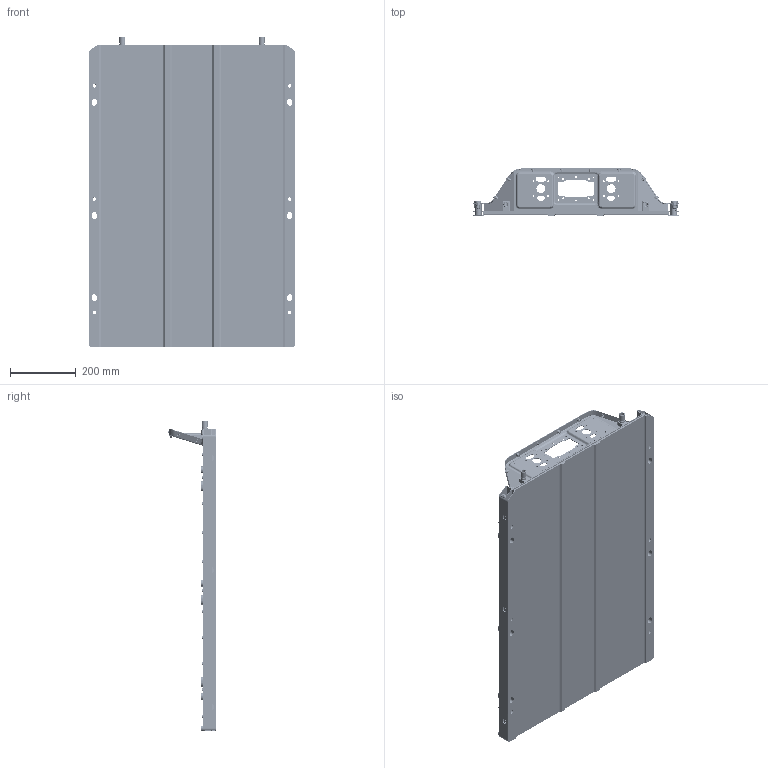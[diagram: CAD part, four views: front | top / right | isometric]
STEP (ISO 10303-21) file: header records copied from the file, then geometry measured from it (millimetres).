
FILE_DESCRIPTION (( 'STEP AP203' ), '1' );
FILE_NAME ('B230-YD-G-眊极爾諉璃.STEP', '2021-09-07T06:02:36', ( 'lenovo' ), ( '' ), 'SwSTEP 2.0', 'SolidWorks 2017', '' );
FILE_SCHEMA (( 'CONFIG_CONTROL_DESIGN' ));
Length unit declared in the file: millimetre
Products named in the file (17): 珘濮阨郲; 3-B230-ﾒｺﾀ蔆萠蟷ﾌｶｨﾂﾝﾎﾆｿﾗ; 3-B230-珘濮眊极L倛殤; 3-B230-ﾒｺﾀ蔆萠蟷ﾌｶｨｳ､ﾔｲｿﾗ; B230-YD-G-眊极爾諉璃; 3-B230-M6拉铆螺母1.5×13; 3-B230-珘濮眊极-酘-G; 3-B230-液冷箱体M5拉铆螺母（台阶型）; 3-B230-珘濮眊极-衵-G; YT3-B230-ヶ醱啣-陔陔; 3-B230-珘濮眊极帣窒; 3-B230-盄縐赽; 3-B230-珘濮眊极帣窒奻; 3-B230-液冷箱体M8拉铆螺母0.3; 3-B230-液冷箱体加强筋-后_加强筋-后面; 3-B230-加厚板_默认<按加工>; 3-B230-液冷箱体加强筋-后_加强筋-前面
Assembly tree (84 placements, depth 2):
  B230-YD-G-眊极爾諉璃
    3-B230-珘濮眊极-酘-G
    3-B230-珘濮眊极-衵-G
    3-B230-珘濮眊极帣窒  x2
    3-B230-珘濮眊极帣窒奻
    3-B230-液冷箱体加强筋-后_加强筋-后面
    3-B230-液冷箱体加强筋-后_加强筋-前面
    3-B230-ﾒｺﾀ蔆萠蟷ﾌｶｨﾂﾝﾎﾆｿﾗ  x6
    3-B230-ﾒｺﾀ蔆萠蟷ﾌｶｨｳ､ﾔｲｿﾗ  x6
    3-B230-M6拉铆螺母1.5×13  x12
    3-B230-液冷箱体M5拉铆螺母（台阶型）  x37
    YT3-B230-ヶ醱啣-陔陔
    3-B230-盄縐赽  x5
    3-B230-液冷箱体M8拉铆螺母0.3  x4
    3-B230-加厚板_默认<按加工>  x2
    珘濮阨郲  x2
    3-B230-珘濮眊极L倛殤  x2
Bounding box: 630 x 147.5 x 946.4 mm (x, y, z)
Volume: 3828371.1 mm3; surface area: 3242469.5 mm2
Topology: 96 solids, 96 shells, 6536 faces, 17558 edges, 11612 vertices
Faces by surface type: plane 3290, bspline 1808, cylinder 1010, torus 418, cone 6, sphere 4
Full cylindrical faces by diameter (mm): 4 x2, 4.459 x37, 5.5 x18, 6 x49, 7 x74, 8 x4, 8.9 x12, 8.95 x37, 9 x24, 10 x37, 11 x4, 12 x10, 13 x38, 15 x8, 16.2 x2, 17 x2, 18 x4, 27 x2
Entity records: 229149 total; most frequent: CARTESIAN_POINT 109623, ORIENTED_EDGE 27482, DIRECTION 17541, EDGE_CURVE 13741, VERTEX_POINT 9178, VECTOR 8669, LINE 8669, EDGE_LOOP 5713
